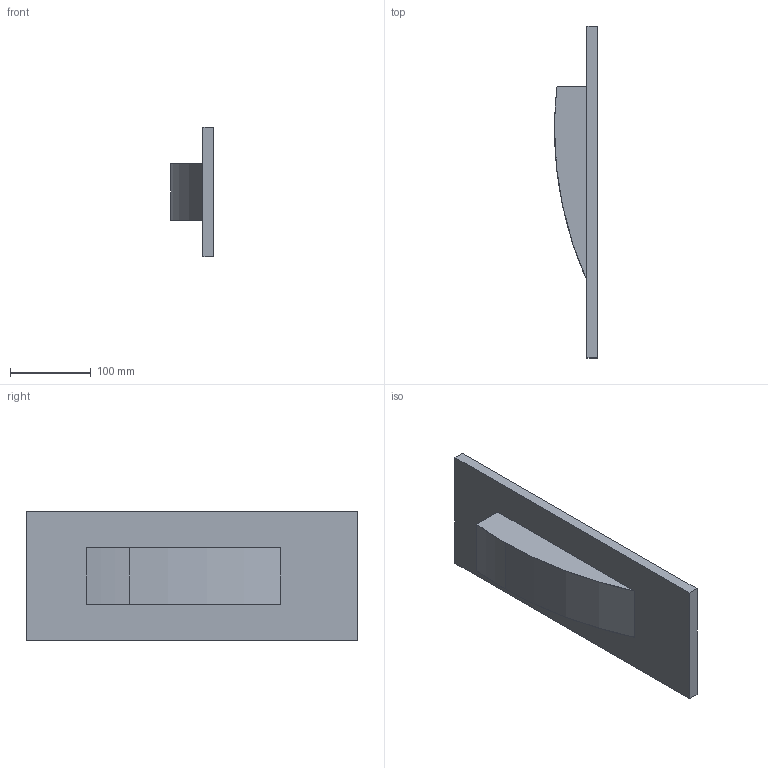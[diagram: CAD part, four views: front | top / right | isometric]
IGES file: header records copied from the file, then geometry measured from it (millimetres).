
Start section: SolidWorks IGES file using analytic representation for surfaces
Global section: file name: C:\Users\Stagiaire\Desktop\Rendu 3D\SLOT XL\3029 SLOT XL3\3029 SLOT XL3.IGS; native system: SolidWorks 2014; preprocessor: SolidWorks 2014; author: Stagiaire; date: 140911.165135; units: millimetre
Bounding box: 53.06 x 410 x 160 mm (x, y, z)
Surface area: 183988.2 mm2 (no closed solid volume)
Topology: 0 solids, 0 shells, 16 faces, 104 edges, 104 vertices
Faces by surface type: bspline 12, revolution 4
